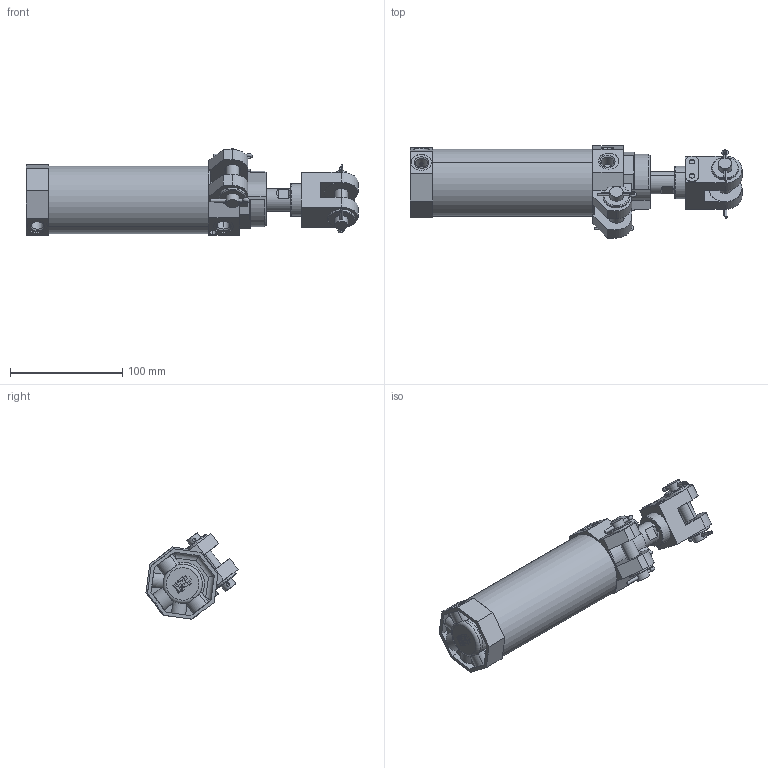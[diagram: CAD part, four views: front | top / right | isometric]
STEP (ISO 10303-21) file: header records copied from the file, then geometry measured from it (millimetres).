
FILE_DESCRIPTION(('CATIA V5 STEP Exchange'),'2;1');
FILE_NAME('D:\stp file for catalog\PRCCA\prcca 50\PRCCA 50-20-100.stp','2015-05-05T07:07:41+00:00',('none'),('none'),'Version 5-6 Release 2012','CATIA V5 STEP AP203','none');
FILE_SCHEMA(('CONFIG_CONTROL_DESIGN'));
Length unit declared in the file: millimetre
Products named in the file (3): pncca 50-20-100; Product1.1; PNCCA 50-20-50-02
Assembly tree (14 placements, depth 3):
  pncca 50-20-100
    Product1.1
      #66
      #7124
      #7293
      #11488  x2
      #12010
      #12336
      #12568
    PNCCA 50-20-50-02
      #12806
      #12010
      #11488  x2
Bounding box: 296.2 x 82.23 x 76.99 mm (x, y, z)
Volume: 333899.9 mm3; surface area: 142471.4 mm2
Topology: 12 solids, 12 shells, 555 faces, 1340 edges, 861 vertices
Faces by surface type: plane 247, cylinder 218, cone 68, torus 12, bspline 9, extrusion 1
Entity records: 15094 total; most frequent: CARTESIAN_POINT 3568, ORIENTED_EDGE 2464, DIRECTION 1937, EDGE_CURVE 1232, AXIS2_PLACEMENT_3D 841, VERTEX_POINT 789, VECTOR 698, LINE 697
